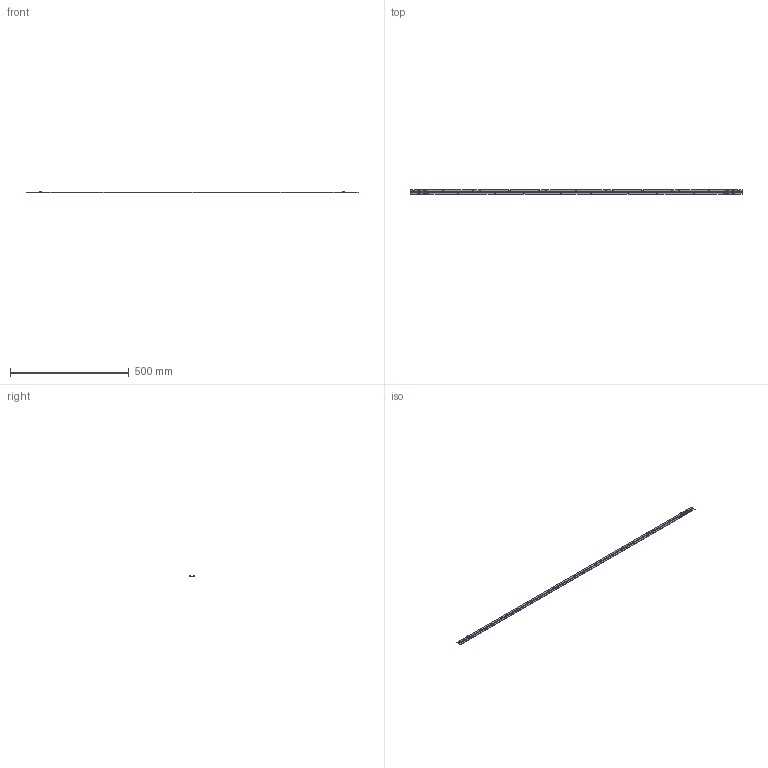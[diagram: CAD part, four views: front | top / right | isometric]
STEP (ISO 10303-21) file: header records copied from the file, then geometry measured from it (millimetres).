
FILE_DESCRIPTION(/* description */ (''),/* implementation_level */ '2;1');
FILE_NAME(/* name */ 'C:\Data\Vault\LE-TPD\4422 946 92780_SB Fortimo LED Strip 5ft 5500lm LV5\4422-946-92781_FC.stp',/* time_stamp */ '2019-08-20T14:00:01+02:00',/* author */ ('600010516'),/* organization */ (''),/* preprocessor_version */ 'ST-DEVELOPER v16.5',/* originating_system */ 'Autodesk Inventor 2017',/* authorisation */ '');
FILE_SCHEMA (('AUTOMOTIVE_DESIGN { 1 0 10303 214 3 1 1 }'));
Products named in the file (1): 4422-946-92780
Bounding box: 1399.2 x 20 x 6.1 mm (x, y, z)
Volume: 45532.6 mm3; surface area: 63978.8 mm2
Topology: 5 solids, 365 shells, 11948 faces, 32982 edges, 21940 vertices
Faces by surface type: plane 10254, cylinder 1606, bspline 44, torus 40, sphere 4
Full cylindrical faces by diameter (mm): 2.2 x4
Entity records: 388159 total; most frequent: CARTESIAN_POINT 68311, ORIENTED_EDGE 65924, DIRECTION 60024, EDGE_CURVE 32958, LINE 29566, VECTOR 29566, VERTEX_POINT 21928, AXIS2_PLACEMENT_3D 15229
